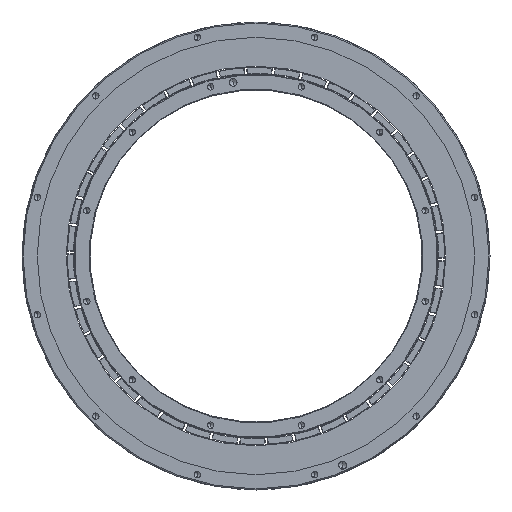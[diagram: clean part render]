
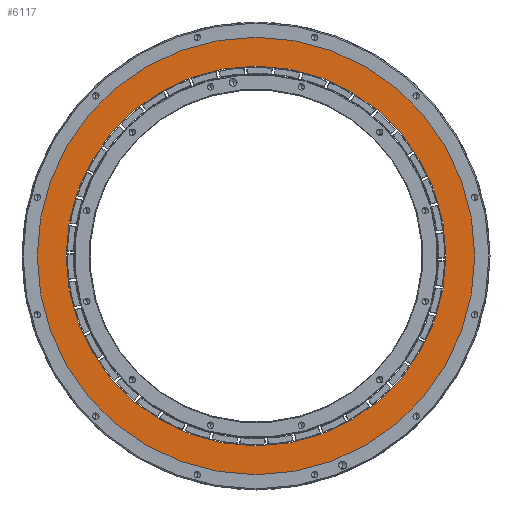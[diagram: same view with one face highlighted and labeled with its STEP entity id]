
A CAD part, front view. The second image highlights one B-rep face of the part: STEP entity #6117.
In plain terms, the highlighted planar face has unit normal (0, -1, 0).
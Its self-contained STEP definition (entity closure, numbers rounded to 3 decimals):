
#1920 = DIRECTION ( 'NONE',  ( 0., 1., 0. ) ) ;
#4865 = CARTESIAN_POINT ( 'NONE',  ( 0., -54., 144.945 ) ) ;
#5900 = CARTESIAN_POINT ( 'NONE',  ( 0., -54., 0. ) ) ;
#6117 = ADVANCED_FACE ( 'NONE', ( #22320, #33284 ), #24842, .F. ) ;
#6635 = EDGE_LOOP ( 'NONE', ( #11011, #28852 ) ) ;
#8638 = DIRECTION ( 'NONE',  ( 0., 0., 1. ) ) ;
#9054 = VERTEX_POINT ( 'NONE', #4865 ) ;
#10247 = AXIS2_PLACEMENT_3D ( 'NONE', #5900, #18923, #16930 ) ;
#10441 = DIRECTION ( 'NONE',  ( 0., 0., 1. ) ) ;
#11011 = ORIENTED_EDGE ( 'NONE', *, *, #17745, .T. ) ;
#11092 = DIRECTION ( 'NONE',  ( 0., 0., 1. ) ) ;
#11852 = EDGE_LOOP ( 'NONE', ( #29313, #33904 ) ) ;
#13472 = AXIS2_PLACEMENT_3D ( 'NONE', #27314, #16500, #11092 ) ;
#16056 = DIRECTION ( 'NONE',  ( 0., 1., 0. ) ) ;
#16241 = DIRECTION ( 'NONE',  ( 0., 1., 0. ) ) ;
#16500 = DIRECTION ( 'NONE',  ( 0., 1., 0. ) ) ;
#16930 = DIRECTION ( 'NONE',  ( 0., 0., 1. ) ) ;
#17745 = EDGE_CURVE ( 'NONE', #28165, #23209, #19446, .T. ) ;
#18196 = CARTESIAN_POINT ( 'NONE',  ( 0., -54., -144.945 ) ) ;
#18923 = DIRECTION ( 'NONE',  ( 0., 1., 0. ) ) ;
#19446 = CIRCLE ( 'NONE', #23493, 125.77 ) ;
#20079 = AXIS2_PLACEMENT_3D ( 'NONE', #23315, #16056, #29747 ) ;
#22320 = FACE_OUTER_BOUND ( 'NONE', #11852, .T. ) ;
#22718 = AXIS2_PLACEMENT_3D ( 'NONE', #27388, #16241, #8638 ) ;
#23209 = VERTEX_POINT ( 'NONE', #34346 ) ;
#23315 = CARTESIAN_POINT ( 'NONE',  ( 0., -54., 0. ) ) ;
#23493 = AXIS2_PLACEMENT_3D ( 'NONE', #29730, #1920, #10441 ) ;
#24842 = PLANE ( 'NONE',  #22718 ) ;
#27314 = CARTESIAN_POINT ( 'NONE',  ( 0., -54., 0. ) ) ;
#27388 = CARTESIAN_POINT ( 'NONE',  ( 0., -54., 0. ) ) ;
#28029 = CIRCLE ( 'NONE', #10247, 125.77 ) ;
#28165 = VERTEX_POINT ( 'NONE', #34558 ) ;
#28852 = ORIENTED_EDGE ( 'NONE', *, *, #32899, .T. ) ;
#29313 = ORIENTED_EDGE ( 'NONE', *, *, #33702, .F. ) ;
#29730 = CARTESIAN_POINT ( 'NONE',  ( 0., -54., 0. ) ) ;
#29747 = DIRECTION ( 'NONE',  ( 0., 0., 1. ) ) ;
#30600 = EDGE_CURVE ( 'NONE', #9054, #33948, #30716, .T. ) ;
#30716 = CIRCLE ( 'NONE', #13472, 144.945 ) ;
#31598 = CIRCLE ( 'NONE', #20079, 144.945 ) ;
#32899 = EDGE_CURVE ( 'NONE', #23209, #28165, #28029, .T. ) ;
#33284 = FACE_BOUND ( 'NONE', #6635, .T. ) ;
#33702 = EDGE_CURVE ( 'NONE', #33948, #9054, #31598, .T. ) ;
#33904 = ORIENTED_EDGE ( 'NONE', *, *, #30600, .F. ) ;
#33948 = VERTEX_POINT ( 'NONE', #18196 ) ;
#34346 = CARTESIAN_POINT ( 'NONE',  ( 0., -54., 125.77 ) ) ;
#34558 = CARTESIAN_POINT ( 'NONE',  ( 0., -54., -125.77 ) ) ;
